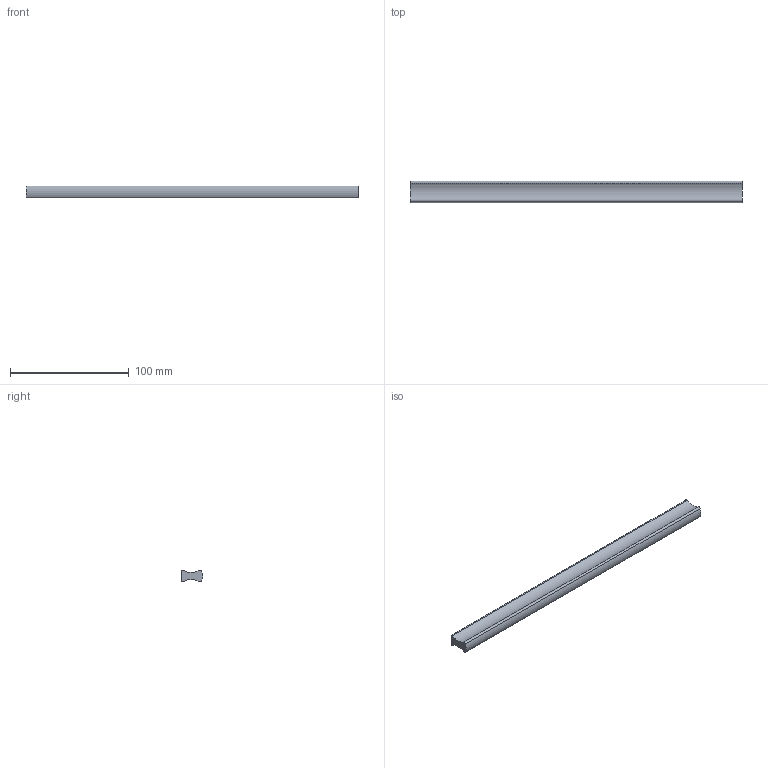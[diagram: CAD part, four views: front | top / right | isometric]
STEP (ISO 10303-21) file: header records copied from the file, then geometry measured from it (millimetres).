
FILE_DESCRIPTION( ( 'STEP AP214' ), '1' );
FILE_NAME( 'C:/Users/kulkarni/Desktop/Apurva/2015/Prodecor_2016/Cadfiles/kervo/9190439.stp', ' ', ( ' ' ), ( ' ' ), 'PSStep 15.0.47', 'PARTsolutions', ' ' );
FILE_SCHEMA( ( 'AUTOMOTIVE_DESIGN { 1 0 10303 214 1 1 1 1 }' ) );
Length unit declared in the file: millimetre
Products named in the file (1): _
Bounding box: 280 x 17.96 x 10 mm (x, y, z)
Volume: 37906.9 mm3; surface area: 15792.1 mm2
Topology: 1 solids, 1 shells, 18 faces, 36 edges, 24 vertices
Faces by surface type: cylinder 11, plane 7
Full cylindrical faces by diameter (mm): 4 x4
Entity records: 622 total; most frequent: DIRECTION 92, CARTESIAN_POINT 75, ORIENTED_EDGE 64, AXIS2_PLACEMENT_3D 41, EDGE_CURVE 32, EDGE_LOOP 26, VERTEX_POINT 24, FACE_OUTER_BOUND 22
